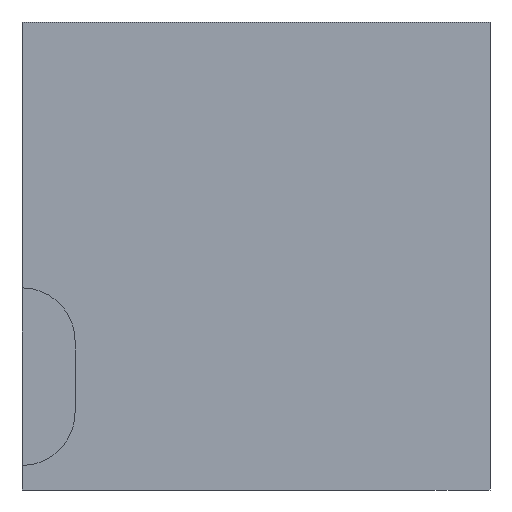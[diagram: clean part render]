
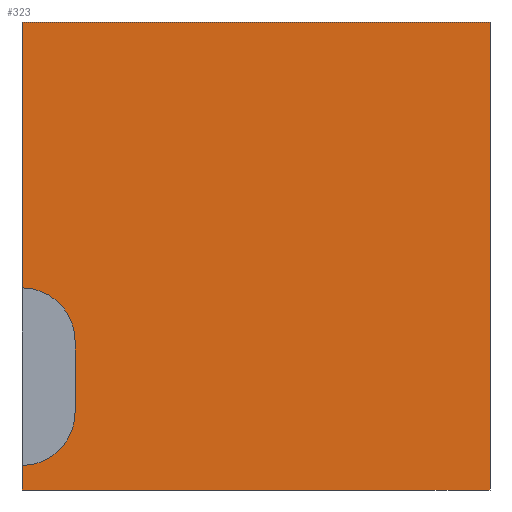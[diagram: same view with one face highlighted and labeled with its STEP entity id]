
A CAD part, front view. The second image highlights one B-rep face of the part: STEP entity #323.
In plain terms, the highlighted planar face has unit normal (0, -1, 0).
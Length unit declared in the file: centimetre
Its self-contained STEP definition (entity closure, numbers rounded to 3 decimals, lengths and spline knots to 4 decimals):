
#2 = VERTEX_POINT ( 'NONE', #691 ) ;
#10 = DIRECTION ( 'NONE',  ( 0., 1., 0. ) ) ;
#33 = FACE_OUTER_BOUND ( 'NONE', #90, .T. ) ;
#36 = CARTESIAN_POINT ( 'NONE',  ( 113.432, 0., 165.9779 ) ) ;
#48 = EDGE_CURVE ( 'NONE', #206, #2, #341, .T. ) ;
#60 = CARTESIAN_POINT ( 'NONE',  ( 1000., 0., 1000. ) ) ;
#79 = VERTEX_POINT ( 'NONE', #80 ) ;
#80 = CARTESIAN_POINT ( 'NONE',  ( 0., 0., 431.9052 ) ) ;
#81 = AXIS2_PLACEMENT_3D ( 'NONE', #225, #498, #94 ) ;
#87 = EDGE_CURVE ( 'NONE', #352, #740, #276, .T. ) ;
#89 = VERTEX_POINT ( 'NONE', #484 ) ;
#90 = EDGE_LOOP ( 'NONE', ( #425, #693, #191, #731, #810, #677, #854, #625 ) ) ;
#91 = CARTESIAN_POINT ( 'NONE',  ( 113.432, 0., 318.4732 ) ) ;
#94 = DIRECTION ( 'NONE',  ( 0., 0., 1. ) ) ;
#96 = VECTOR ( 'NONE', #182, 100. ) ;
#104 = DIRECTION ( 'NONE',  ( 0., 1., 0. ) ) ;
#114 = EDGE_CURVE ( 'NONE', #740, #89, #555, .T. ) ;
#121 = CARTESIAN_POINT ( 'NONE',  ( 0., 0., 0. ) ) ;
#122 = VECTOR ( 'NONE', #817, 100. ) ;
#137 = EDGE_CURVE ( 'NONE', #2, #79, #806, .T. ) ;
#155 = CARTESIAN_POINT ( 'NONE',  ( 0., 0., 1000. ) ) ;
#167 = EDGE_CURVE ( 'NONE', #352, #79, #777, .T. ) ;
#168 = CARTESIAN_POINT ( 'NONE',  ( 0., 0., 1000. ) ) ;
#182 = DIRECTION ( 'NONE',  ( 0., 0., -1. ) ) ;
#191 = ORIENTED_EDGE ( 'NONE', *, *, #660, .T. ) ;
#197 = CARTESIAN_POINT ( 'NONE',  ( 0., 0., 1000. ) ) ;
#206 = VERTEX_POINT ( 'NONE', #36 ) ;
#225 = CARTESIAN_POINT ( 'NONE',  ( 0., 0., 318.4732 ) ) ;
#276 = LINE ( 'NONE', #155, #457 ) ;
#311 = CARTESIAN_POINT ( 'NONE',  ( 0., 0., 1000. ) ) ;
#319 = CIRCLE ( 'NONE', #807, 113.432 ) ;
#323 = ADVANCED_FACE ( 'NONE', ( #33 ), #482, .F. ) ;
#335 = VERTEX_POINT ( 'NONE', #430 ) ;
#341 = LINE ( 'NONE', #91, #122 ) ;
#346 = DIRECTION ( 'NONE',  ( 1., 0., 0. ) ) ;
#352 = VERTEX_POINT ( 'NONE', #637 ) ;
#363 = AXIS2_PLACEMENT_3D ( 'NONE', #311, #104, #749 ) ;
#388 = LINE ( 'NONE', #197, #493 ) ;
#425 = ORIENTED_EDGE ( 'NONE', *, *, #48, .F. ) ;
#430 = CARTESIAN_POINT ( 'NONE',  ( 0., 0., 0. ) ) ;
#457 = VECTOR ( 'NONE', #346, 100. ) ;
#482 = PLANE ( 'NONE',  #363 ) ;
#484 = CARTESIAN_POINT ( 'NONE',  ( 1000., 0., 0. ) ) ;
#493 = VECTOR ( 'NONE', #848, 100. ) ;
#498 = DIRECTION ( 'NONE',  ( 0., -1., 0. ) ) ;
#537 = CARTESIAN_POINT ( 'NONE',  ( 0., 0., 52.546 ) ) ;
#555 = LINE ( 'NONE', #695, #713 ) ;
#599 = VECTOR ( 'NONE', #666, 100. ) ;
#612 = CARTESIAN_POINT ( 'NONE',  ( 0., 0., 165.9779 ) ) ;
#625 = ORIENTED_EDGE ( 'NONE', *, *, #137, .F. ) ;
#637 = CARTESIAN_POINT ( 'NONE',  ( 0., 0., 1000. ) ) ;
#653 = EDGE_CURVE ( 'NONE', #335, #89, #741, .T. ) ;
#660 = EDGE_CURVE ( 'NONE', #748, #335, #388, .T. ) ;
#666 = DIRECTION ( 'NONE',  ( 1., 0., 0. ) ) ;
#677 = ORIENTED_EDGE ( 'NONE', *, *, #87, .F. ) ;
#691 = CARTESIAN_POINT ( 'NONE',  ( 113.432, 0., 318.4732 ) ) ;
#693 = ORIENTED_EDGE ( 'NONE', *, *, #790, .T. ) ;
#695 = CARTESIAN_POINT ( 'NONE',  ( 1000., 0., 1000. ) ) ;
#713 = VECTOR ( 'NONE', #814, 100. ) ;
#731 = ORIENTED_EDGE ( 'NONE', *, *, #653, .T. ) ;
#740 = VERTEX_POINT ( 'NONE', #60 ) ;
#741 = LINE ( 'NONE', #121, #599 ) ;
#748 = VERTEX_POINT ( 'NONE', #537 ) ;
#749 = DIRECTION ( 'NONE',  ( 0., 0., 1. ) ) ;
#761 = DIRECTION ( 'NONE',  ( 0., 0., 1. ) ) ;
#777 = LINE ( 'NONE', #168, #96 ) ;
#790 = EDGE_CURVE ( 'NONE', #206, #748, #319, .T. ) ;
#806 = CIRCLE ( 'NONE', #81, 113.432 ) ;
#807 = AXIS2_PLACEMENT_3D ( 'NONE', #612, #10, #761 ) ;
#810 = ORIENTED_EDGE ( 'NONE', *, *, #114, .F. ) ;
#814 = DIRECTION ( 'NONE',  ( 0., 0., -1. ) ) ;
#817 = DIRECTION ( 'NONE',  ( 0., 0., 1. ) ) ;
#848 = DIRECTION ( 'NONE',  ( 0., 0., -1. ) ) ;
#854 = ORIENTED_EDGE ( 'NONE', *, *, #167, .T. ) ;
